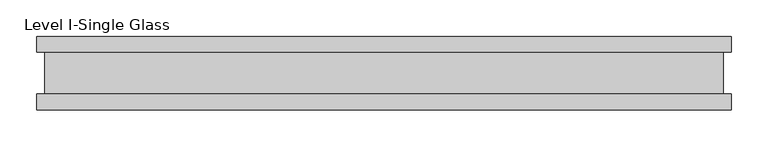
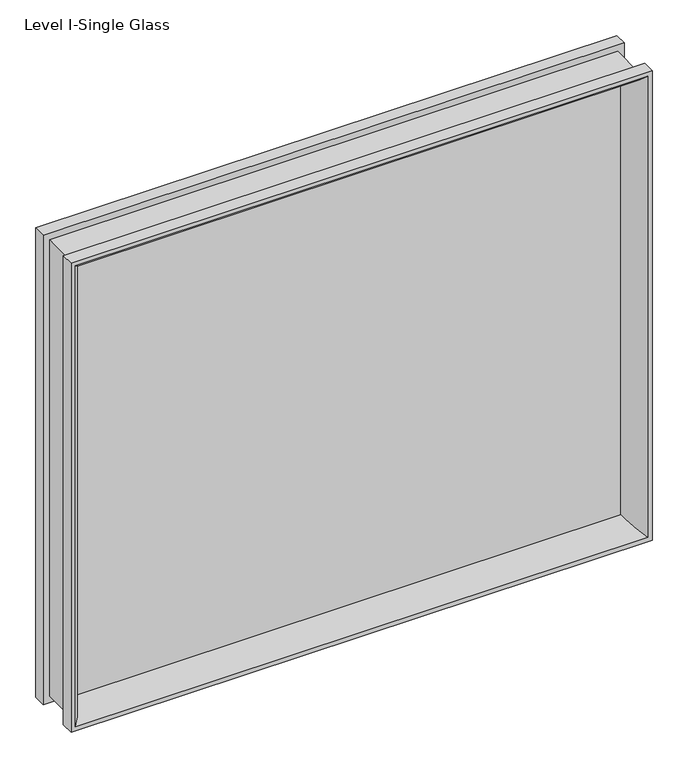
"""IFC4 building model written with IfcOpenShell, lengths in millimetres: proxy geometry, Panel-Fascia-Teknion-Altos-Single_Glass : Level I-Single Glass."""

from ifc_helpers import new_model, si_unit, frame, origin, place, context, project, spatial, polyline, ellipse_curve, outline, extrude, source, transform, mapped, element, save
from ifc_brep_helpers import plane_surface, cylinder_surface, advanced_brep


def level_i_single_glass_8a8042db(model_context):
    return source(origin(), model_context, "Body", "SolidModel", [
        advanced_brep(
        [(447.4829676, -5.0827449, 784.6723332), (447.4829676, -5.0827449, 28.1276668), (465.4378179, -50.0558594, 10.1728164), (465.4378179, -50.0558594, 802.6271836), (457.9731586, 5.0827449, 795.1625243), (457.9731586, 5.0827449, 17.6374757), (457.9731586, -5.0827449, 17.6374757), (457.9731586, -5.0827449, 795.1625243), (465.4378179, 50.0558594, 802.6271836), (465.4378179, 50.0558594, 10.1728164), (447.4829676, 5.0827449, 28.1276668), (447.4829676, 5.0827449, 784.6723332), (472.4356344, 28.8801202, 809.625), (472.4356344, 28.8801202, 3.175), (472.4356344, 50.0558594, 3.175), (472.4356344, 50.0558594, 809.625), (461.6106344, -28.2698798, 798.8000001), (461.6106344, -28.2698798, 13.9999999), (461.6106344, 28.8801202, 13.9999999), (461.6106344, 28.8801202, 798.8000001), (472.4356344, -50.0558594, 809.625), (472.4356344, -50.0558594, 3.175), (472.4356344, -28.2698798, 3.175), (472.4356344, -28.2698798, 809.625), (-447.4829676, -5.0827449, 28.1276668), (-465.4378179, -50.0558594, 10.1728164), (-457.9731586, 5.0827449, 17.6374757), (-457.9731586, -5.0827449, 17.6374757), (-465.4378179, 50.0558594, 10.1728164), (-447.4829676, 5.0827449, 28.1276668), (-472.4356344, 28.8801202, 3.175), (-472.4356344, 50.0558594, 3.175), (-461.6106344, -28.2698798, 13.9999999), (-461.6106344, 28.8801202, 13.9999999), (-472.4356344, -50.0558594, 3.175), (-472.4356344, -28.2698798, 3.175), (-447.4829676, -5.0827449, 784.6723332), (-465.4378179, -50.0558594, 802.6271836), (-457.9731586, 5.0827449, 795.1625243), (-457.9731586, -5.0827449, 795.1625243), (-465.4378179, 50.0558594, 802.6271836), (-447.4829676, 5.0827449, 784.6723332), (-472.4356344, 28.8801202, 809.625), (-472.4356344, 50.0558594, 809.625), (-461.6106344, -28.2698798, 798.8000001), (-461.6106344, 28.8801202, 798.8000001), (-472.4356344, -50.0558594, 809.625), (-472.4356344, -28.2698798, 809.625)],
        [
            (0, 1),
            (1, 2, ellipse_curve(frame((499.5692049, -10.3587469, -23.9585705), z_axis=(0.7071067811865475, 0.0, 0.7071067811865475), x_axis=(-0.7071067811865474, 0.0, 0.7071067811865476)), 74.0379946, 52.352768)),
            (2, 3),
            (3, 0, ellipse_curve(frame((499.5692049, -10.3587469, 836.7585705), z_axis=(0.7071067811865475, 0.0, -0.7071067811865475), x_axis=(0.7071067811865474, 0.0, 0.7071067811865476)), 74.0379946, 52.352768)),
            (4, 5),
            (5, 6),
            (6, 7),
            (7, 4),
            (8, 9),
            (9, 10, ellipse_curve(frame((499.5692049, 10.3587469, -23.9585705), z_axis=(0.7071067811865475, 0.0, 0.7071067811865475), x_axis=(-0.7071067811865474, 0.0, 0.7071067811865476)), 74.0379946, 52.352768)),
            (10, 11),
            (11, 8, ellipse_curve(frame((499.5692049, 10.3587469, 836.7585705), z_axis=(0.7071067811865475, 0.0, -0.7071067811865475), x_axis=(0.7071067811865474, 0.0, 0.7071067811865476)), 74.0379946, 52.352768)),
            (12, 13),
            (13, 14),
            (14, 15),
            (15, 12),
            (16, 17),
            (17, 18),
            (18, 19),
            (19, 16),
            (20, 21),
            (21, 22),
            (22, 23),
            (23, 20),
            (1, 24),
            (24, 25, ellipse_curve(frame((-499.5692049, -10.3587469, -23.9585705), z_axis=(0.7071067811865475, 0.0, -0.7071067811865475), x_axis=(0.7071067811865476, 0.0, 0.7071067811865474)), 74.0379946, 52.352768)),
            (25, 2),
            (5, 26),
            (26, 27),
            (27, 6),
            (9, 28),
            (28, 29, ellipse_curve(frame((-499.5692049, 10.3587469, -23.9585705), z_axis=(0.7071067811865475, 0.0, -0.7071067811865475), x_axis=(0.7071067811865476, 0.0, 0.7071067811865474)), 74.0379946, 52.352768)),
            (29, 10),
            (13, 30),
            (30, 31),
            (31, 14),
            (17, 32),
            (32, 33),
            (33, 18),
            (21, 34),
            (34, 35),
            (35, 22),
            (24, 36),
            (36, 37, ellipse_curve(frame((-499.5692049, -10.3587469, 836.7585705), z_axis=(-0.7071067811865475, 0.0, -0.7071067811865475), x_axis=(0.7071067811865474, 0.0, -0.7071067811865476)), 74.0379946, 52.352768)),
            (37, 25),
            (26, 38),
            (38, 39),
            (39, 27),
            (28, 40),
            (40, 41, ellipse_curve(frame((-499.5692049, 10.3587469, 836.7585705), z_axis=(-0.7071067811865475, 0.0, -0.7071067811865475), x_axis=(0.7071067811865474, 0.0, -0.7071067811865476)), 74.0379946, 52.352768)),
            (41, 29),
            (30, 42),
            (42, 43),
            (43, 31),
            (32, 44),
            (44, 45),
            (45, 33),
            (34, 46),
            (46, 47),
            (47, 35),
            (20, 46),
            (37, 3),
            (36, 0),
            (39, 7),
            (38, 4),
            (41, 11),
            (40, 8),
            (43, 15),
            (42, 12),
            (45, 19),
            (44, 16),
            (47, 23),
        ],
        [
            cylinder_surface(frame((499.5692049, -10.3587469, 809.625), z_axis=(0.0, 0.0, 1.0), x_axis=(1.0, 0.0, 0.0)), 52.352768),
            plane_surface(frame((457.9731586, -5.0827449, 795.1625243), z_axis=(-1.0, 0.0, 0.0), x_axis=(0.0, 0.0, -1.0))),
            cylinder_surface(frame((499.5692049, 10.3587469, 809.625), z_axis=(0.0, 0.0, 1.0), x_axis=(1.0, 0.0, 0.0)), 52.352768),
            plane_surface(frame((472.4356344, 50.0558594, 809.625), z_axis=(1.0, 0.0, 0.0), x_axis=(0.0, 0.0, -1.0))),
            plane_surface(frame((461.6106344, 28.8801202, 798.8000001), z_axis=(1.0, 0.0, 0.0), x_axis=(0.0, 0.0, -1.0))),
            plane_surface(frame((472.4356344, -28.2698798, 809.625), z_axis=(1.0, 0.0, 0.0), x_axis=(0.0, 0.0, -1.0))),
            cylinder_surface(frame((472.4356344, -10.3587469, -23.9585705), z_axis=(1.0, 0.0, 0.0), x_axis=(0.0, 0.0, -1.0)), 52.352768),
            plane_surface(frame((457.9731586, -5.0827449, 17.6374757), z_axis=(0.0, 0.0, 1.0), x_axis=(-1.0, 0.0, 0.0))),
            cylinder_surface(frame((472.4356344, 10.3587469, -23.9585705), z_axis=(1.0, 0.0, 0.0), x_axis=(0.0, 0.0, -1.0)), 52.352768),
            plane_surface(frame((472.4356344, 50.0558594, 3.175), z_axis=(0.0, 0.0, -1.0), x_axis=(-1.0, 0.0, 0.0))),
            plane_surface(frame((461.6106344, 28.8801202, 13.9999999), z_axis=(0.0, 0.0, -1.0), x_axis=(-1.0, 0.0, 0.0))),
            plane_surface(frame((472.4356344, -28.2698798, 3.175), z_axis=(0.0, 0.0, -1.0), x_axis=(-1.0, 0.0, 0.0))),
            cylinder_surface(frame((-499.5692049, -10.3587469, 3.175), z_axis=(0.0, 0.0, -1.0), x_axis=(-1.0, 0.0, 0.0)), 52.352768),
            plane_surface(frame((-457.9731586, -5.0827449, 17.6374757), z_axis=(1.0, 0.0, 0.0), x_axis=(0.0, 0.0, 1.0))),
            cylinder_surface(frame((-499.5692049, 10.3587469, 3.175), z_axis=(0.0, 0.0, -1.0), x_axis=(-1.0, 0.0, 0.0)), 52.352768),
            plane_surface(frame((-472.4356344, 50.0558594, 3.175), z_axis=(-1.0, 0.0, 0.0), x_axis=(0.0, 0.0, 1.0))),
            plane_surface(frame((-461.6106344, 28.8801202, 13.9999999), z_axis=(-1.0, 0.0, 0.0), x_axis=(0.0, 0.0, 1.0))),
            plane_surface(frame((-472.4356344, -28.2698798, 3.175), z_axis=(-1.0, 0.0, 0.0), x_axis=(0.0, 0.0, 1.0))),
            plane_surface(frame((-472.4356344, -50.0558594, 809.625), z_axis=(0.0, -1.0, 0.0), x_axis=(1.0, 0.0, 0.0))),
            cylinder_surface(frame((-472.4356344, -10.3587469, 836.7585705), z_axis=(-1.0, 0.0, 0.0), x_axis=(0.0, 0.0, 1.0)), 52.352768),
            plane_surface(frame((-447.4829676, -5.0827449, 784.6723332), z_axis=(0.0, 1.0, 0.0), x_axis=(1.0, 0.0, 0.0))),
            plane_surface(frame((-457.9731586, -5.0827449, 795.1625243), z_axis=(0.0, 0.0, -1.0), x_axis=(1.0, 0.0, 0.0))),
            plane_surface(frame((-457.9731586, 5.0827449, 795.1625243), z_axis=(0.0, -1.0, 0.0), x_axis=(1.0, 0.0, 0.0))),
            cylinder_surface(frame((-472.4356344, 10.3587469, 836.7585705), z_axis=(-1.0, 0.0, 0.0), x_axis=(0.0, 0.0, 1.0)), 52.352768),
            plane_surface(frame((-465.4378179, 50.0558594, 802.6271836), z_axis=(0.0, 1.0, 0.0), x_axis=(1.0, 0.0, 0.0))),
            plane_surface(frame((-472.4356344, 50.0558594, 809.625), z_axis=(0.0, 0.0, 1.0), x_axis=(1.0, 0.0, 0.0))),
            plane_surface(frame((-472.4356344, 28.8801202, 809.625), z_axis=(0.0, -1.0, 0.0), x_axis=(1.0, 0.0, 0.0))),
            plane_surface(frame((-461.6106344, 28.8801202, 798.8000001), z_axis=(0.0, 0.0, 1.0), x_axis=(1.0, 0.0, 0.0))),
            plane_surface(frame((-461.6106344, -28.2698798, 798.8000001), z_axis=(0.0, 1.0, 0.0), x_axis=(1.0, 0.0, 0.0))),
            plane_surface(frame((-472.4356344, -28.2698798, 809.625), z_axis=(0.0, 0.0, 1.0), x_axis=(1.0, 0.0, 0.0))),
        ],
        [
            (0, [[1, 2, 3, 4]]),
            (1, [[5, 6, 7, 8]]),
            (2, [[9, 10, 11, 12]]),
            (3, [[13, 14, 15, 16]]),
            (4, [[17, 18, 19, 20]]),
            (5, [[21, 22, 23, 24]]),
            (6, [[25, 26, 27, -2]]),
            (7, [[28, 29, 30, -6]]),
            (8, [[31, 32, 33, -10]]),
            (9, [[34, 35, 36, -14]]),
            (10, [[37, 38, 39, -18]]),
            (11, [[40, 41, 42, -22]]),
            (12, [[43, 44, 45, -26]]),
            (13, [[46, 47, 48, -29]]),
            (14, [[49, 50, 51, -32]]),
            (15, [[52, 53, 54, -35]]),
            (16, [[55, 56, 57, -38]]),
            (17, [[58, 59, 60, -41]]),
            (18, [[-21, 61, -58, -40], [-3, -27, -45, 62]]),
            (19, [[63, -4, -62, -44]]),
            (20, [[-7, -30, -48, 64], [-1, -63, -43, -25]]),
            (21, [[65, -8, -64, -47]]),
            (22, [[-5, -65, -46, -28], [-11, -33, -51, 66]]),
            (23, [[67, -12, -66, -50]]),
            (24, [[-15, -36, -54, 68], [-9, -67, -49, -31]]),
            (25, [[69, -16, -68, -53]]),
            (26, [[-13, -69, -52, -34], [-19, -39, -57, 70]]),
            (27, [[71, -20, -70, -56]]),
            (28, [[-23, -42, -60, 72], [-17, -71, -55, -37]]),
            (29, [[-61, -24, -72, -59]]),
        ],
    ),
        extrude(outline(polyline([(457.9731586, -2.9765625), (-457.9731586, -2.9765625), (-457.9731586, 2.9765625), (457.9731586, 2.9765625), (457.9731586, -2.9765625)])), frame((0.0, 0.0, 17.6374757), z_axis=(0.0, 0.0, 1.0), x_axis=(1.0, 0.0, 0.0)), (0.0, 0.0, 1.0), 777.5250485),
    ])


if __name__ == "__main__":
    model = new_model("IFC4")
    model_context = context("Model", 3, world=origin())
    ifc_project = project(units=[si_unit("LENGTHUNIT", "METRE", prefix="MILLI")], contexts=[model_context])
    site = spatial("IfcSite", under=ifc_project)
    building = spatial("IfcBuilding", under=site)
    placement = place(None, origin())
    level_i_single_glass_shape = level_i_single_glass_8a8042db(model_context)
    element("IfcBuildingElementProxy", 1, Name="Panel-Fascia-Teknion-Altos-Single_Glass : Level I-Single Glass", ObjectType="Panel-Fascia-Teknion-Altos-Single_Glass : Level I-Single Glass", at=placement, inside=building, context=model_context, shape_type="MappedRepresentation", body=[
        mapped(level_i_single_glass_shape, transform((0.0, 0.0, 0.0), x_axis=(1.0, 0.0, 0.0), y_axis=(0.0, 1.0, 0.0), z_axis=(0.0, 0.0, 1.0))),
    ])
    save(model, "model.ifc")
